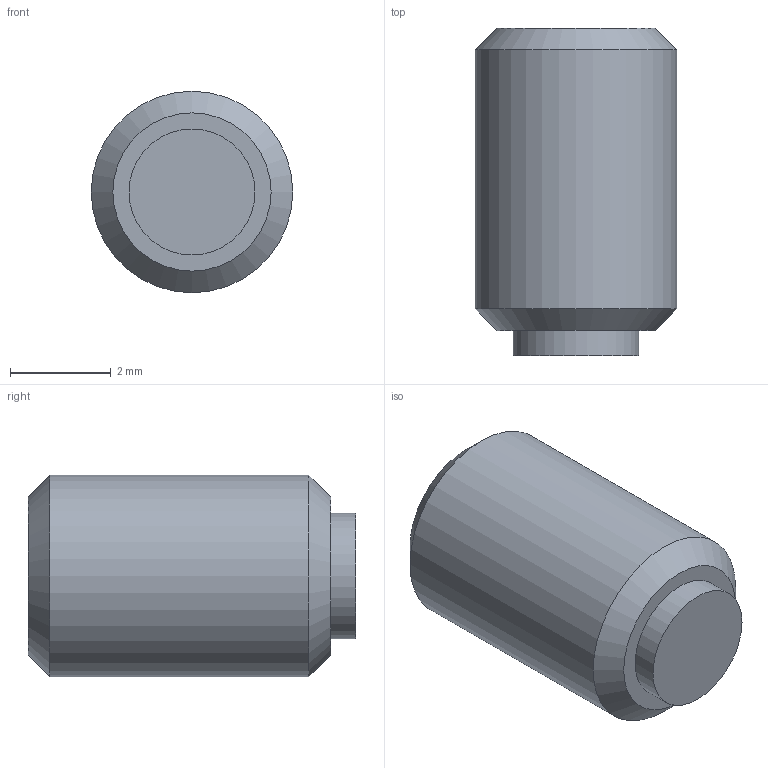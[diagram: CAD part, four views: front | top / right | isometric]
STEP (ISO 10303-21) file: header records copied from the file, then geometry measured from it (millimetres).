
FILE_DESCRIPTION( ( 'STEP AP203' ), '1' );
FILE_NAME( 'C:/Temp/Ganter_Step_05_03_2020/data/3_2/gn913_3/Grub screw GN 913.3-M4-6-MS.stp', '2020-03-13T05:35:44', ( 'License CC BY-ND 4.0' ), ( 'CADENAS' ), ' ', 'PARTsolutions', ' ' );
FILE_SCHEMA( ( 'CONFIG_CONTROL_DESIGN' ) );
Length unit declared in the file: millimetre
Products named in the file (1): _Grub screw GN 913.3-M4-6-MS
Bounding box: 4 x 6.5 x 4 mm (x, y, z)
Volume: 67 mm3; surface area: 115 mm2
Topology: 1 solids, 1 shells, 14 faces, 28 edges, 18 vertices
Faces by surface type: plane 10, cylinder 2, cone 2
Full cylindrical faces by diameter (mm): 2.5 x1, 4 x1
Entity records: 386 total; most frequent: DIRECTION 60, CARTESIAN_POINT 57, ORIENTED_EDGE 48, EDGE_CURVE 24, AXIS2_PLACEMENT_3D 21, EDGE_LOOP 20, VERTEX_POINT 18, LINE 18
